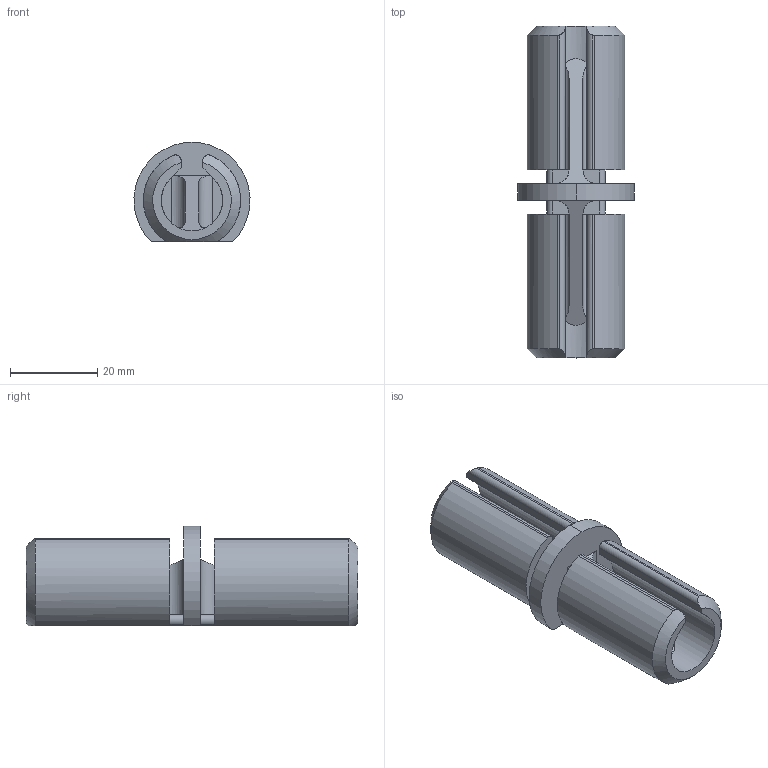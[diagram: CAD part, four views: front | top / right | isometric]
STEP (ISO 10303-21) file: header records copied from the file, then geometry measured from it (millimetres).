
FILE_DESCRIPTION(/* description */ ('STEP AP242 Edition 2','CAx-IF Rec.Pracs.---Representation and Presentation of Product Manufacturing Information (PMI)---4.0---2014-10-13','CAx-IF Rec.Pracs.---3D Tessellated Geometry---0.4---2014-09-14','2;1','CAx-IF Rec.Pracs.---User Defined Attributes---1.5---2016-08-15'),/* implementation_level */ '2;1');
FILE_NAME(/* name */ 'wall pipe extender - split - pipe extender',/* time_stamp */ '2026-06-03T10:27:24Z',/* author */ (''),/* organization */ (''),/* preprocessor_version */ 'ST-DEVELOPER v20',/* originating_system */ 'ONSHAPE BY PTC INC, 1.215',/* authorisation */ ' ');
FILE_SCHEMA (('AP242_MANAGED_MODEL_BASED_3D_ENGINEERING_MIM_LF { 1 0 10303 442 3 1 4 }'));
Length unit declared in the file: metre
Products named in the file (1): pipe extender
Bounding box: 26.64 x 76.2 x 22.86 mm (x, y, z)
Volume: 16403.2 mm3; surface area: 9714.1 mm2
Topology: 1 solids, 1 shells, 58 faces, 177 edges, 121 vertices
Faces by surface type: cylinder 28, plane 27, cone 3
Entity records: 2071 total; most frequent: CARTESIAN_POINT 411, ORIENTED_EDGE 354, DIRECTION 352, EDGE_CURVE 177, AXIS2_PLACEMENT_3D 131, VERTEX_POINT 121, LINE 90, VECTOR 90
